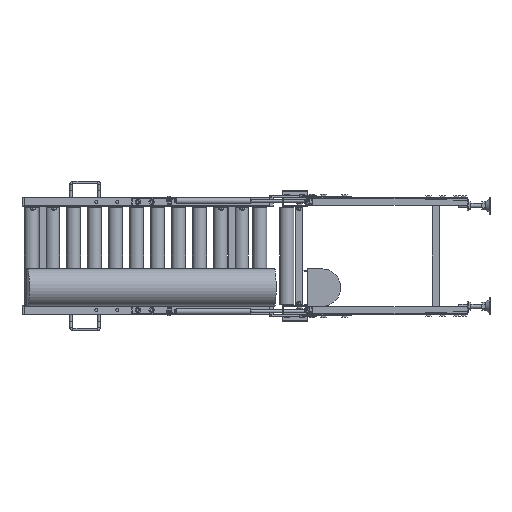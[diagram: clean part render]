
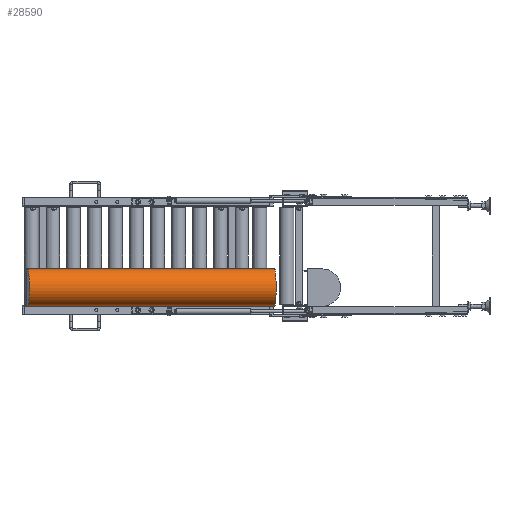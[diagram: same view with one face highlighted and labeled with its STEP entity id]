
A CAD part, left-side view. The second image highlights one B-rep face of the part: STEP entity #28590.
In plain terms, the highlighted cylindrical face has radius 66.89 mm (diameter 133.78 mm), a partial arc.
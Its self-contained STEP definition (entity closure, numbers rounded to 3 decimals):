
#559 = FACE_OUTER_BOUND ( 'NONE', #29183, .T. ) ;
#3757 = AXIS2_PLACEMENT_3D ( 'NONE', #36151, #42031, #31001 ) ;
#6023 = CARTESIAN_POINT ( 'NONE',  ( -63.444, -158.438, -112.61 ) ) ;
#6808 = EDGE_CURVE ( 'NONE', #43070, #60299, #64637, .T. ) ;
#14265 = VECTOR ( 'NONE', #71554, 1000. ) ;
#14627 = VECTOR ( 'NONE', #44153, 1000. ) ;
#16888 = CARTESIAN_POINT ( 'NONE',  ( -78.917, 18.539, -112.61 ) ) ;
#19192 = EDGE_CURVE ( 'NONE', #65202, #60299, #70325, .T. ) ;
#21017 = LINE ( 'NONE', #26704, #14627 ) ;
#21521 = ORIENTED_EDGE ( 'NONE', *, *, #74958, .F. ) ;
#21817 = ORIENTED_EDGE ( 'NONE', *, *, #19192, .T. ) ;
#22996 = CARTESIAN_POINT ( 'NONE',  ( -155.735, 897.187, -179.5 ) ) ;
#26704 = CARTESIAN_POINT ( 'NONE',  ( -63.444, -158.438, -179.5 ) ) ;
#28590 = ADVANCED_FACE ( 'NONE', ( #559 ), #35567, .T. ) ;
#29183 = EDGE_LOOP ( 'NONE', ( #21521, #37009, #21817, #31258 ) ) ;
#30518 = CIRCLE ( 'NONE', #67583, 66.89 ) ;
#31001 = DIRECTION ( 'NONE',  ( 0., 0., -1. ) ) ;
#31258 = ORIENTED_EDGE ( 'NONE', *, *, #6808, .F. ) ;
#35567 = CYLINDRICAL_SURFACE ( 'NONE', #47374, 66.89 ) ;
#36151 = CARTESIAN_POINT ( 'NONE',  ( -155.735, 897.187, -112.61 ) ) ;
#37009 = ORIENTED_EDGE ( 'NONE', *, *, #60337, .T. ) ;
#41510 = CARTESIAN_POINT ( 'NONE',  ( -63.444, -158.438, -45.72 ) ) ;
#42031 = DIRECTION ( 'NONE',  ( -0.087, 0.996, 0. ) ) ;
#43070 = VERTEX_POINT ( 'NONE', #22996 ) ;
#43232 = CARTESIAN_POINT ( 'NONE',  ( -78.917, 18.539, -45.72 ) ) ;
#44153 = DIRECTION ( 'NONE',  ( -0.087, 0.996, 0. ) ) ;
#45928 = CARTESIAN_POINT ( 'NONE',  ( -155.735, 897.187, -45.72 ) ) ;
#47374 = AXIS2_PLACEMENT_3D ( 'NONE', #6023, #64337, #53259 ) ;
#48883 = VERTEX_POINT ( 'NONE', #58172 ) ;
#53259 = DIRECTION ( 'NONE',  ( 0., 0., 1. ) ) ;
#58172 = CARTESIAN_POINT ( 'NONE',  ( -78.917, 18.539, -179.5 ) ) ;
#60299 = VERTEX_POINT ( 'NONE', #45928 ) ;
#60337 = EDGE_CURVE ( 'NONE', #48883, #65202, #30518, .T. ) ;
#64337 = DIRECTION ( 'NONE',  ( -0.087, 0.996, 0. ) ) ;
#64637 = CIRCLE ( 'NONE', #3757, 66.89 ) ;
#65202 = VERTEX_POINT ( 'NONE', #43232 ) ;
#67583 = AXIS2_PLACEMENT_3D ( 'NONE', #16888, #75704, #70316 ) ;
#70316 = DIRECTION ( 'NONE',  ( 0., 0., -1. ) ) ;
#70325 = LINE ( 'NONE', #41510, #14265 ) ;
#71554 = DIRECTION ( 'NONE',  ( -0.087, 0.996, 0. ) ) ;
#74958 = EDGE_CURVE ( 'NONE', #48883, #43070, #21017, .T. ) ;
#75704 = DIRECTION ( 'NONE',  ( -0.087, 0.996, 0. ) ) ;
